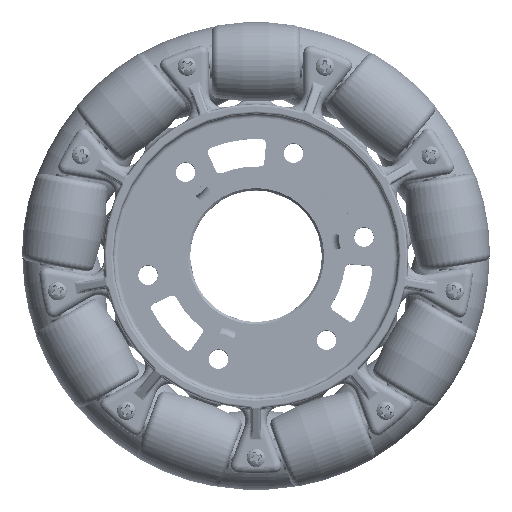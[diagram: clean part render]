
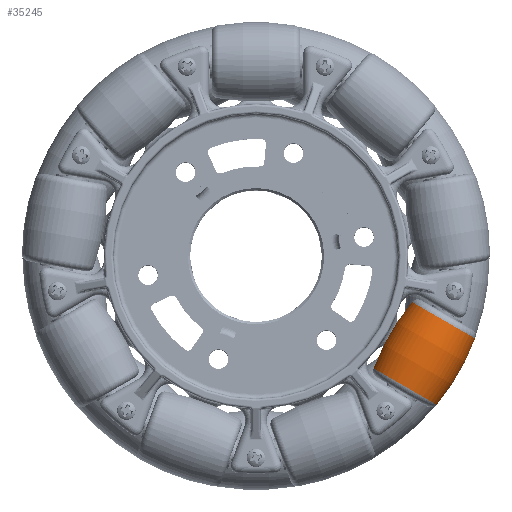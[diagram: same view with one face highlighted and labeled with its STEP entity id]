
A CAD part, top view. The second image highlights one B-rep face of the part: STEP entity #35245.
In plain terms, the highlighted toroidal (fillet/blend) face has major radius 42.178 mm and minor radius 50.8 mm.
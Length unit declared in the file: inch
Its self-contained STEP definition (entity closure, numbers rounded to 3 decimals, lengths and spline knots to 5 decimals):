
#809 = VERTEX_POINT ( 'NONE', #49136 ) ;
#1688 = DIRECTION ( 'NONE',  ( 0., -1., 0. ) ) ;
#4636 = ORIENTED_EDGE ( 'NONE', *, *, #68810, .F. ) ;
#7033 = DIRECTION ( 'NONE',  ( -1., 0., 0. ) ) ;
#7999 = ORIENTED_EDGE ( 'NONE', *, *, #13591, .T. ) ;
#9089 = AXIS2_PLACEMENT_3D ( 'NONE', #69570, #35684, #1688 ) ;
#9169 = ORIENTED_EDGE ( 'NONE', *, *, #59717, .T. ) ;
#12701 = CARTESIAN_POINT ( 'NONE',  ( 0., 0., 0. ) ) ;
#13591 = EDGE_CURVE ( 'NONE', #18650, #25648, #61692, .T. ) ;
#14158 = CARTESIAN_POINT ( 'NONE',  ( 0.32774, -0.3124, 0. ) ) ;
#14835 = CARTESIAN_POINT ( 'NONE',  ( 0., 1.66057, 0. ) ) ;
#18579 = AXIS2_PLACEMENT_3D ( 'NONE', #12701, #7033, #52409 ) ;
#18650 = VERTEX_POINT ( 'NONE', #21262 ) ;
#20562 = DIRECTION ( 'NONE',  ( -1., 0., 0. ) ) ;
#21262 = CARTESIAN_POINT ( 'NONE',  ( -0.32774, -0.3124, 0. ) ) ;
#25648 = VERTEX_POINT ( 'NONE', #26091 ) ;
#26091 = CARTESIAN_POINT ( 'NONE',  ( -0.32774, 0.3124, 0. ) ) ;
#30139 = CARTESIAN_POINT ( 'NONE',  ( -0.32774, 0., 0. ) ) ;
#31739 = DIRECTION ( 'NONE',  ( 0., 0., 1. ) ) ;
#34183 = AXIS2_PLACEMENT_3D ( 'NONE', #30139, #69771, #35889 ) ;
#34263 = VERTEX_POINT ( 'NONE', #14158 ) ;
#35054 = CIRCLE ( 'NONE', #48759, 2. ) ;
#35107 = FACE_OUTER_BOUND ( 'NONE', #50240, .T. ) ;
#35245 = ADVANCED_FACE ( 'NONE', ( #35107 ), #63405, .T. ) ;
#35684 = DIRECTION ( 'NONE',  ( -1., 0., 0. ) ) ;
#35889 = DIRECTION ( 'NONE',  ( 0., 1., 0. ) ) ;
#37520 = ORIENTED_EDGE ( 'NONE', *, *, #70460, .T. ) ;
#46456 = AXIS2_PLACEMENT_3D ( 'NONE', #14835, #54520, #20562 ) ;
#48759 = AXIS2_PLACEMENT_3D ( 'NONE', #65633, #31739, #71335 ) ;
#49136 = CARTESIAN_POINT ( 'NONE',  ( 0.32774, 0.3124, 0. ) ) ;
#50240 = EDGE_LOOP ( 'NONE', ( #4636, #9169, #37520, #7999 ) ) ;
#52409 = DIRECTION ( 'NONE',  ( 0., -1., 0. ) ) ;
#54520 = DIRECTION ( 'NONE',  ( 0., 0., -1. ) ) ;
#55015 = CIRCLE ( 'NONE', #9089, 0.3124 ) ;
#59717 = EDGE_CURVE ( 'NONE', #809, #34263, #55015, .T. ) ;
#61692 = CIRCLE ( 'NONE', #34183, 0.3124 ) ;
#63405 = TOROIDAL_SURFACE ( 'NONE', #18579, -1.66057, 2. ) ;
#65633 = CARTESIAN_POINT ( 'NONE',  ( 0., -1.66057, 0. ) ) ;
#68810 = EDGE_CURVE ( 'NONE', #809, #25648, #35054, .T. ) ;
#69570 = CARTESIAN_POINT ( 'NONE',  ( 0.32774, 0., 0. ) ) ;
#69771 = DIRECTION ( 'NONE',  ( 1., 0., 0. ) ) ;
#70460 = EDGE_CURVE ( 'NONE', #34263, #18650, #72042, .T. ) ;
#71335 = DIRECTION ( 'NONE',  ( 0., -1., 0. ) ) ;
#72042 = CIRCLE ( 'NONE', #46456, 2. ) ;
